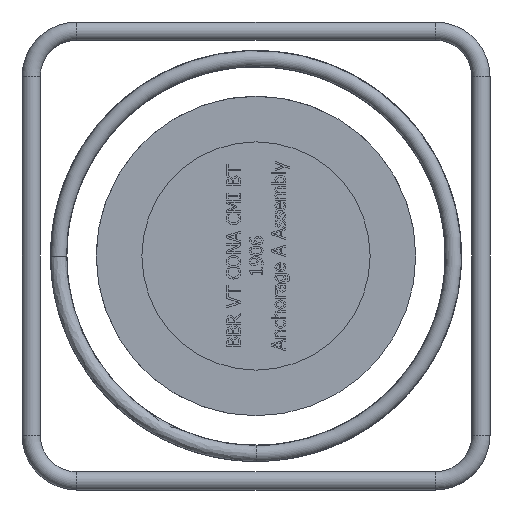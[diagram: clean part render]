
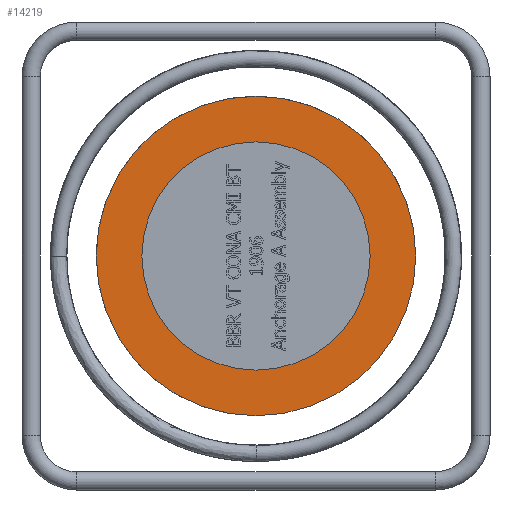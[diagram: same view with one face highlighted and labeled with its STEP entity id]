
A CAD part, left-side view. The second image highlights one B-rep face of the part: STEP entity #14219.
In plain terms, the highlighted planar face has unit normal (-1, 0, 0).
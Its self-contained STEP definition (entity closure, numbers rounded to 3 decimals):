
#2792=PLANE('',#14789);
#3612=FACE_BOUND('',#5247,.T.);
#4343=FACE_OUTER_BOUND('',#5246,.T.);
#5246=EDGE_LOOP('',(#12238));
#5247=EDGE_LOOP('',(#12239));
#5524=CIRCLE('',#14790,140.);
#5525=CIRCLE('',#14791,100.);
#6810=VERTEX_POINT('',#28607);
#6811=VERTEX_POINT('',#28609);
#8654=EDGE_CURVE('',#6810,#6810,#5524,.T.);
#8655=EDGE_CURVE('',#6811,#6811,#5525,.T.);
#12238=ORIENTED_EDGE('',*,*,#8654,.T.);
#12239=ORIENTED_EDGE('',*,*,#8655,.F.);
#14219=ADVANCED_FACE('',(#4343,#3612),#2792,.T.);
#14789=AXIS2_PLACEMENT_3D('',#28606,#16928,#16929);
#14790=AXIS2_PLACEMENT_3D('',#28608,#16930,#16931);
#14791=AXIS2_PLACEMENT_3D('',#28610,#16932,#16933);
#16928=DIRECTION('center_axis',(-1.,0.,0.));
#16929=DIRECTION('ref_axis',(0.,1.,0.));
#16930=DIRECTION('center_axis',(-1.,0.,0.));
#16931=DIRECTION('ref_axis',(0.,0.,1.));
#16932=DIRECTION('center_axis',(-1.,0.,0.));
#16933=DIRECTION('ref_axis',(0.,0.,
-1.));
#28606=CARTESIAN_POINT('Origin',(-161.995,0.,
111.));
#28607=CARTESIAN_POINT('',(-161.995,0.,140.));
#28608=CARTESIAN_POINT('Origin',(-161.995,0.,
0.));
#28609=CARTESIAN_POINT('',(-161.995,0.,-100.));
#28610=CARTESIAN_POINT('Origin',(-161.995,0.,
0.));
